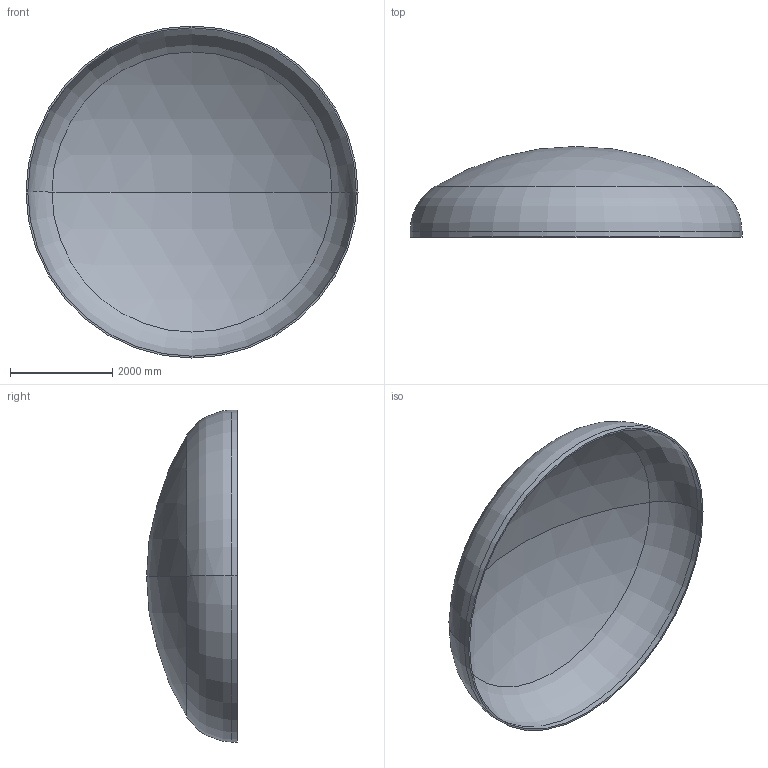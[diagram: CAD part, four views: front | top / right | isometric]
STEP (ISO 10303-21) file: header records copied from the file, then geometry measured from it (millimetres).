
FILE_DESCRIPTION (( 'STEP AP203' ), '1' );
FILE_NAME ('DIN 28013 Korbbogenform_-_Boden DIN 28013 - 6500 x 110 - I - s=35.step', '2016-07-04T10:41:27', ( '' ), ( '' ), 'SwSTEP 2.0', 'SolidWorks 2013', '' );
FILE_SCHEMA (( 'CONFIG_CONTROL_DESIGN' ));
Length unit declared in the file: millimetre
Products named in the file (1): DIN 28013 Korbbogenform_-_Boden DIN 28013 - 6500 x 110 - I - s=35
Bounding box: 6500 x 1776.56 x 6500 mm (x, y, z)
Volume: 1675054643.1 mm3; surface area: 96430800 mm2
Topology: 1 solids, 1 shells, 13 faces, 24 edges, 14 vertices
Faces by surface type: torus 4, cylinder 4, sphere 4, plane 1
Entity records: 407 total; most frequent: DIRECTION 72, CARTESIAN_POINT 52, ORIENTED_EDGE 48, AXIS2_PLACEMENT_3D 34, EDGE_CURVE 24, CIRCLE 20, VERTEX_POINT 14, EDGE_LOOP 14
